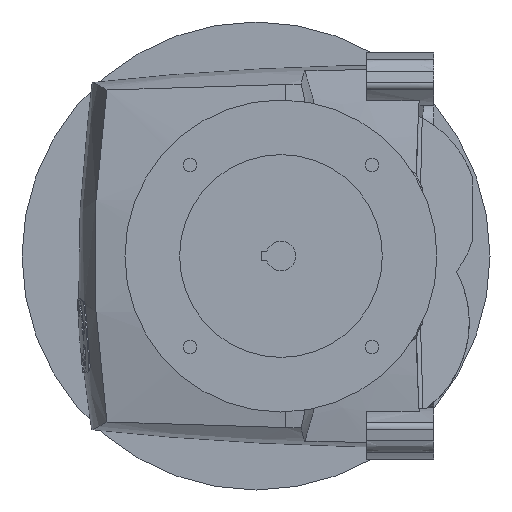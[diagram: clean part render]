
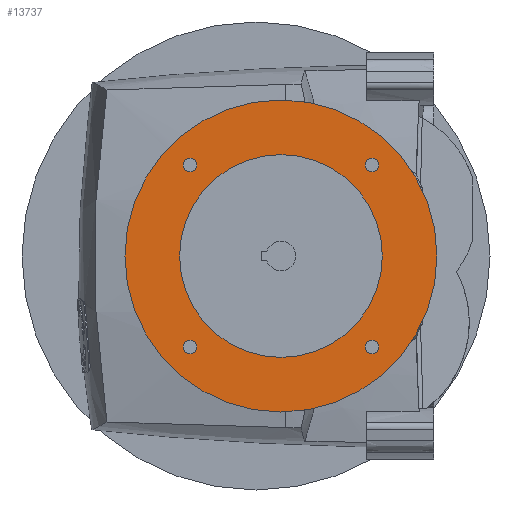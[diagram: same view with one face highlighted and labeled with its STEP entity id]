
A CAD part, left-side view. The second image highlights one B-rep face of the part: STEP entity #13737.
In plain terms, the highlighted planar face has unit normal (-1, 0, 0).
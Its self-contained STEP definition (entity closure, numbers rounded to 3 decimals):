
#4858=CARTESIAN_POINT('',(-168.,124.,0.));
#4859=DIRECTION('',(-1.,0.,0.));
#4860=DIRECTION('',(0.,1.,0.));
#4861=AXIS2_PLACEMENT_3D('',#4858,#4859,#4860);
#4863=CARTESIAN_POINT('',(-168.,124.,0.));
#4864=DIRECTION('',(-1.,0.,0.));
#4865=DIRECTION('',(0.,-1.,0.));
#4866=AXIS2_PLACEMENT_3D('',#4863,#4864,#4865);
#4868=CARTESIAN_POINT('',(-168.,124.,0.));
#4869=DIRECTION('',(-1.,0.,0.));
#4870=DIRECTION('',(0.,-1.,0.));
#4871=AXIS2_PLACEMENT_3D('',#4868,#4869,#4870);
#4873=CARTESIAN_POINT('',(-168.,124.,0.));
#4874=DIRECTION('',(-1.,0.,0.));
#4875=DIRECTION('',(0.,1.,0.));
#4876=AXIS2_PLACEMENT_3D('',#4873,#4874,#4875);
#4878=CARTESIAN_POINT('',(-168.,65.664,58.336));
#4879=DIRECTION('',(-1.,0.,0.));
#4880=DIRECTION('',(0.,-1.,0.));
#4881=AXIS2_PLACEMENT_3D('',#4878,#4879,#4880);
#4883=CARTESIAN_POINT('',(-168.,65.664,58.336));
#4884=DIRECTION('',(-1.,0.,0.));
#4885=DIRECTION('',(0.,1.,0.));
#4886=AXIS2_PLACEMENT_3D('',#4883,#4884,#4885);
#4888=CARTESIAN_POINT('',(-168.,182.336,58.336));
#4889=DIRECTION('',(-1.,0.,0.));
#4890=DIRECTION('',(0.,-1.,0.));
#4891=AXIS2_PLACEMENT_3D('',#4888,#4889,#4890);
#4893=CARTESIAN_POINT('',(-168.,182.336,58.336));
#4894=DIRECTION('',(-1.,0.,0.));
#4895=DIRECTION('',(0.,1.,0.));
#4896=AXIS2_PLACEMENT_3D('',#4893,#4894,#4895);
#4898=CARTESIAN_POINT('',(-168.,182.336,-58.336));
#4899=DIRECTION('',(-1.,0.,0.));
#4900=DIRECTION('',(0.,-1.,0.));
#4901=AXIS2_PLACEMENT_3D('',#4898,#4899,#4900);
#4903=CARTESIAN_POINT('',(-168.,182.336,-58.336));
#4904=DIRECTION('',(-1.,0.,0.));
#4905=DIRECTION('',(0.,1.,0.));
#4906=AXIS2_PLACEMENT_3D('',#4903,#4904,#4905);
#4908=CARTESIAN_POINT('',(-168.,65.664,-58.336));
#4909=DIRECTION('',(-1.,0.,0.));
#4910=DIRECTION('',(0.,-1.,0.));
#4911=AXIS2_PLACEMENT_3D('',#4908,#4909,#4910);
#4913=CARTESIAN_POINT('',(-168.,65.664,-58.336));
#4914=DIRECTION('',(-1.,0.,0.));
#4915=DIRECTION('',(0.,1.,0.));
#4916=AXIS2_PLACEMENT_3D('',#4913,#4914,#4915);
#7866=CARTESIAN_POINT('',(-168.,224.,0.));
#7867=CARTESIAN_POINT('',(-168.,24.,0.));
#7868=VERTEX_POINT('',#7866);
#7869=VERTEX_POINT('',#7867);
#7874=CARTESIAN_POINT('',(-168.,59.,0.));
#7875=CARTESIAN_POINT('',(-168.,189.,0.));
#7876=VERTEX_POINT('',#7874);
#7877=VERTEX_POINT('',#7875);
#7926=CARTESIAN_POINT('',(-168.,61.414,58.336));
#7927=CARTESIAN_POINT('',(-168.,69.914,58.336));
#7928=VERTEX_POINT('',#7926);
#7929=VERTEX_POINT('',#7927);
#7930=CARTESIAN_POINT('',(-168.,178.086,58.336));
#7931=CARTESIAN_POINT('',(-168.,186.586,58.336));
#7932=VERTEX_POINT('',#7930);
#7933=VERTEX_POINT('',#7931);
#7934=CARTESIAN_POINT('',(-168.,178.086,-58.336));
#7935=CARTESIAN_POINT('',(-168.,186.586,-58.336));
#7936=VERTEX_POINT('',#7934);
#7937=VERTEX_POINT('',#7935);
#7938=CARTESIAN_POINT('',(-168.,61.414,-58.336));
#7939=CARTESIAN_POINT('',(-168.,69.914,-58.336));
#7940=VERTEX_POINT('',#7938);
#7941=VERTEX_POINT('',#7939);
#13698=CARTESIAN_POINT('',(-168.,0.,0.));
#13699=DIRECTION('',(-1.,0.,0.));
#13700=DIRECTION('',(0.,-1.,0.));
#13701=AXIS2_PLACEMENT_3D('',#13698,#13699,#13700);
#13702=PLANE('',#13701);
#13703=ORIENTED_EDGE('',*,*,#13678,.F.);
#13704=ORIENTED_EDGE('',*,*,#13692,.F.);
#13705=EDGE_LOOP('',(#13703,#13704));
#13706=FACE_OUTER_BOUND('',#13705,.F.);
#13708=ORIENTED_EDGE('',*,*,#13707,.T.);
#13710=ORIENTED_EDGE('',*,*,#13709,.T.);
#13711=EDGE_LOOP('',(#13708,#13710));
#13712=FACE_BOUND('',#13711,.F.);
#13714=ORIENTED_EDGE('',*,*,#13713,.T.);
#13716=ORIENTED_EDGE('',*,*,#13715,.T.);
#13717=EDGE_LOOP('',(#13714,#13716));
#13718=FACE_BOUND('',#13717,.F.);
#13720=ORIENTED_EDGE('',*,*,#13719,.T.);
#13722=ORIENTED_EDGE('',*,*,#13721,.T.);
#13723=EDGE_LOOP('',(#13720,#13722));
#13724=FACE_BOUND('',#13723,.F.);
#13726=ORIENTED_EDGE('',*,*,#13725,.T.);
#13728=ORIENTED_EDGE('',*,*,#13727,.T.);
#13729=EDGE_LOOP('',(#13726,#13728));
#13730=FACE_BOUND('',#13729,.F.);
#13732=ORIENTED_EDGE('',*,*,#13731,.T.);
#13734=ORIENTED_EDGE('',*,*,#13733,.T.);
#13735=EDGE_LOOP('',(#13732,#13734));
#13736=FACE_BOUND('',#13735,.F.);
#13737=ADVANCED_FACE('',(#13706,#13712,#13718,#13724,#13730,#13736),#13702,.T.);
#4862=CIRCLE('',#4861,100.);
#4867=CIRCLE('',#4866,100.);
#4872=CIRCLE('',#4871,65.);
#4877=CIRCLE('',#4876,65.);
#4882=CIRCLE('',#4881,4.25);
#4887=CIRCLE('',#4886,4.25);
#4892=CIRCLE('',#4891,4.25);
#4897=CIRCLE('',#4896,4.25);
#4902=CIRCLE('',#4901,4.25);
#4907=CIRCLE('',#4906,4.25);
#4912=CIRCLE('',#4911,4.25);
#4917=CIRCLE('',#4916,4.25);
#13678=EDGE_CURVE('',#7868,#7869,#4862,.T.);
#13692=EDGE_CURVE('',#7869,#7868,#4867,.T.);
#13707=EDGE_CURVE('',#7876,#7877,#4872,.T.);
#13709=EDGE_CURVE('',#7877,#7876,#4877,.T.);
#13713=EDGE_CURVE('',#7928,#7929,#4882,.T.);
#13715=EDGE_CURVE('',#7929,#7928,#4887,.T.);
#13719=EDGE_CURVE('',#7932,#7933,#4892,.T.);
#13721=EDGE_CURVE('',#7933,#7932,#4897,.T.);
#13725=EDGE_CURVE('',#7936,#7937,#4902,.T.);
#13727=EDGE_CURVE('',#7937,#7936,#4907,.T.);
#13731=EDGE_CURVE('',#7940,#7941,#4912,.T.);
#13733=EDGE_CURVE('',#7941,#7940,#4917,.T.);
